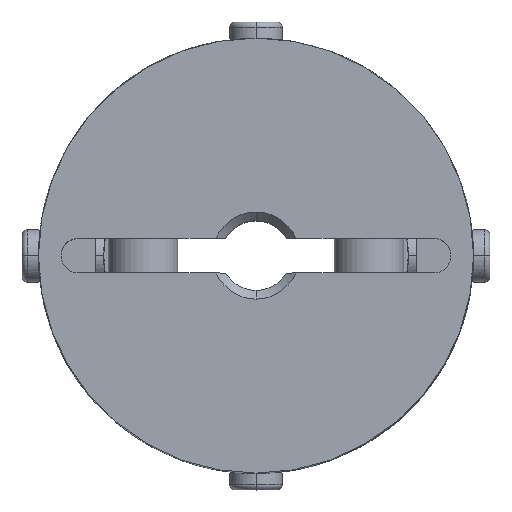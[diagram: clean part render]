
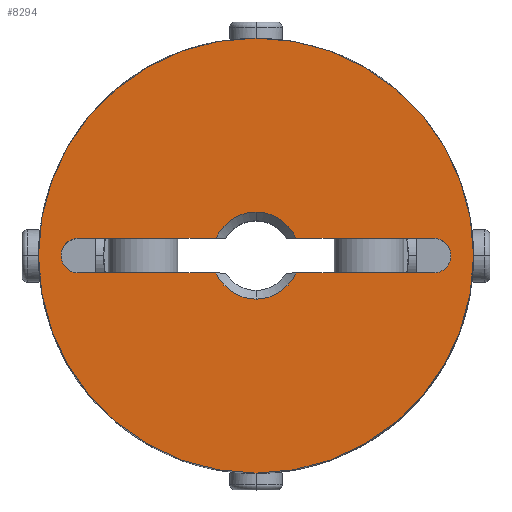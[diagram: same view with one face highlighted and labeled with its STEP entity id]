
A CAD part, top view. The second image highlights one B-rep face of the part: STEP entity #8294.
In plain terms, the highlighted planar face has unit normal (0, 0, 1).
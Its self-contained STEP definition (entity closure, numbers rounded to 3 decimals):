
#885=CARTESIAN_POINT('',(0.,12.5,13.5));
#886=VERTEX_POINT('',#885);
#893=CARTESIAN_POINT('',(0.,-12.5,13.5));
#894=VERTEX_POINT('',#893);
#895=CARTESIAN_POINT('',(0.,0.0,13.5));
#896=DIRECTION('',(0.0,0.0,-1.0));
#897=DIRECTION('',(0.0,-1.0,0.0));
#898=AXIS2_PLACEMENT_3D('',#895,#896,#897);
#899=CIRCLE('',#898,12.5);
#900=EDGE_CURVE('',#886,#894,#899,.T.);
#1153=CARTESIAN_POINT('',(10.907,0.707,13.5));
#1154=VERTEX_POINT('',#1153);
#1170=CARTESIAN_POINT('',(10.2,-1.,13.5));
#1171=VERTEX_POINT('',#1170);
#1178=CARTESIAN_POINT('',(10.2,0.,13.5));
#1179=DIRECTION('',(0.0,0.0,1.0));
#1180=DIRECTION('',(0.707,-0.707,0.0));
#1181=AXIS2_PLACEMENT_3D('',#1178,#1179,#1180);
#1182=CIRCLE('',#1181,1.0);
#1183=EDGE_CURVE('',#1171,#1154,#1182,.T.);
#1195=CARTESIAN_POINT('',(-10.907,-0.707,13.5));
#1196=VERTEX_POINT('',#1195);
#1212=CARTESIAN_POINT('',(-10.2,1.,13.5));
#1213=VERTEX_POINT('',#1212);
#1220=CARTESIAN_POINT('',(-10.2,0.,13.5));
#1221=DIRECTION('',(0.0,0.0,1.0));
#1222=DIRECTION('',(-0.707,0.707,0.0));
#1223=AXIS2_PLACEMENT_3D('',#1220,#1221,#1222);
#1224=CIRCLE('',#1223,1.0);
#1225=EDGE_CURVE('',#1213,#1196,#1224,.T.);
#1235=CARTESIAN_POINT('',(0.,2.5,13.5));
#1236=VERTEX_POINT('',#1235);
#1244=CARTESIAN_POINT('',(2.291,1.,13.5));
#1245=VERTEX_POINT('',#1244);
#1259=CARTESIAN_POINT('',(0.,0.0,13.5));
#1260=DIRECTION('',(0.0,0.0,1.0));
#1261=DIRECTION('',(0.0,1.0,0.0));
#1262=AXIS2_PLACEMENT_3D('',#1259,#1260,#1261);
#1263=CIRCLE('',#1262,2.5);
#1264=EDGE_CURVE('',#1245,#1236,#1263,.T.);
#1276=CARTESIAN_POINT('',(0.,-2.5,13.5));
#1277=VERTEX_POINT('',#1276);
#1293=CARTESIAN_POINT('',(-2.291,-1.,13.5));
#1294=VERTEX_POINT('',#1293);
#1308=CARTESIAN_POINT('',(0.,0.0,13.5));
#1309=DIRECTION('',(0.0,0.0,1.0));
#1310=DIRECTION('',(0.0,-1.0,0.0));
#1311=AXIS2_PLACEMENT_3D('',#1308,#1309,#1310);
#1312=CIRCLE('',#1311,2.5);
#1313=EDGE_CURVE('',#1294,#1277,#1312,.T.);
#8086=CARTESIAN_POINT('',(-10.2,-1.,13.5));
#8087=VERTEX_POINT('',#8086);
#8094=CARTESIAN_POINT('',(-2.291,-1.,13.5));
#8095=DIRECTION('',(-1.0,0.0,0.0));
#8096=VECTOR('',#8095,7.909);
#8097=LINE('',#8094,#8096);
#8098=EDGE_CURVE('',#1294,#8087,#8097,.T.);
#8155=CARTESIAN_POINT('',(-2.291,1.,13.5));
#8156=VERTEX_POINT('',#8155);
#8170=CARTESIAN_POINT('',(-10.2,1.,13.5));
#8171=DIRECTION('',(1.0,0.0,0.0));
#8172=VECTOR('',#8171,7.909);
#8173=LINE('',#8170,#8172);
#8174=EDGE_CURVE('',#1213,#8156,#8173,.T.);
#8191=CARTESIAN_POINT('',(2.291,-1.,13.5));
#8192=VERTEX_POINT('',#8191);
#8193=CARTESIAN_POINT('',(0.,0.0,13.5));
#8194=DIRECTION('',(0.0,0.0,1.0));
#8195=DIRECTION('',(0.0,-1.0,0.0));
#8196=AXIS2_PLACEMENT_3D('',#8193,#8194,#8195);
#8197=CIRCLE('',#8196,2.5);
#8198=EDGE_CURVE('',#1277,#8192,#8197,.T.);
#8225=CARTESIAN_POINT('',(10.2,-1.,13.5));
#8226=DIRECTION('',(-1.0,0.0,0.0));
#8227=VECTOR('',#8226,7.909);
#8228=LINE('',#8225,#8227);
#8229=EDGE_CURVE('',#1171,#8192,#8228,.T.);
#8240=CARTESIAN_POINT('',(0.,-1.136,13.5));
#8241=DIRECTION('',(0.0,0.0,1.0));
#8242=DIRECTION('',(0.0,-1.0,0.0));
#8243=AXIS2_PLACEMENT_3D('',#8240,#8241,#8242);
#8244=PLANE('',#8243);
#8245=CARTESIAN_POINT('',(0.,0.0,13.5));
#8246=DIRECTION('',(0.0,0.0,-1.0));
#8247=DIRECTION('',(0.0,-1.0,0.0));
#8248=AXIS2_PLACEMENT_3D('',#8245,#8246,#8247);
#8249=CIRCLE('',#8248,12.5);
#8250=EDGE_CURVE('',#894,#886,#8249,.T.);
#8251=ORIENTED_EDGE('',*,*,#8250,.F.);
#8252=ORIENTED_EDGE('',*,*,#900,.F.);
#8253=EDGE_LOOP('',(#8251,#8252));
#8254=FACE_OUTER_BOUND('',#8253,.T.);
#8255=ORIENTED_EDGE('',*,*,#1313,.F.);
#8256=ORIENTED_EDGE('',*,*,#8098,.T.);
#8257=CARTESIAN_POINT('',(-10.2,0.,13.5));
#8258=DIRECTION('',(0.0,0.0,1.0));
#8259=DIRECTION('',(-0.707,0.707,0.0));
#8260=AXIS2_PLACEMENT_3D('',#8257,#8258,#8259);
#8261=CIRCLE('',#8260,1.0);
#8262=EDGE_CURVE('',#1196,#8087,#8261,.T.);
#8263=ORIENTED_EDGE('',*,*,#8262,.F.);
#8264=ORIENTED_EDGE('',*,*,#1225,.F.);
#8265=ORIENTED_EDGE('',*,*,#8174,.T.);
#8266=CARTESIAN_POINT('',(0.,0.0,13.5));
#8267=DIRECTION('',(0.0,0.0,1.0));
#8268=DIRECTION('',(0.0,1.0,0.0));
#8269=AXIS2_PLACEMENT_3D('',#8266,#8267,#8268);
#8270=CIRCLE('',#8269,2.5);
#8271=EDGE_CURVE('',#1236,#8156,#8270,.T.);
#8272=ORIENTED_EDGE('',*,*,#8271,.F.);
#8273=ORIENTED_EDGE('',*,*,#1264,.F.);
#8274=CARTESIAN_POINT('',(10.2,1.,13.5));
#8275=VERTEX_POINT('',#8274);
#8276=CARTESIAN_POINT('',(2.291,1.,13.5));
#8277=DIRECTION('',(1.0,0.0,0.0));
#8278=VECTOR('',#8277,7.909);
#8279=LINE('',#8276,#8278);
#8280=EDGE_CURVE('',#1245,#8275,#8279,.T.);
#8281=ORIENTED_EDGE('',*,*,#8280,.T.);
#8282=CARTESIAN_POINT('',(10.2,0.,13.5));
#8283=DIRECTION('',(0.0,0.0,1.0));
#8284=DIRECTION('',(0.707,-0.707,0.0));
#8285=AXIS2_PLACEMENT_3D('',#8282,#8283,#8284);
#8286=CIRCLE('',#8285,1.0);
#8287=EDGE_CURVE('',#1154,#8275,#8286,.T.);
#8288=ORIENTED_EDGE('',*,*,#8287,.F.);
#8289=ORIENTED_EDGE('',*,*,#1183,.F.);
#8290=ORIENTED_EDGE('',*,*,#8229,.T.);
#8291=ORIENTED_EDGE('',*,*,#8198,.F.);
#8292=EDGE_LOOP('',(#8255,#8256,#8263,#8264,#8265,#8272,#8273,#8281,#8288,#8289,#8290,#8291));
#8293=FACE_BOUND('',#8292,.T.);
#8294=ADVANCED_FACE('',(#8254,#8293),#8244,.T.);
